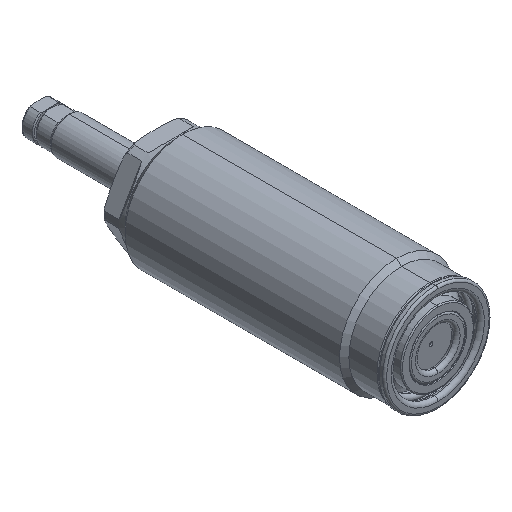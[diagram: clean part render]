
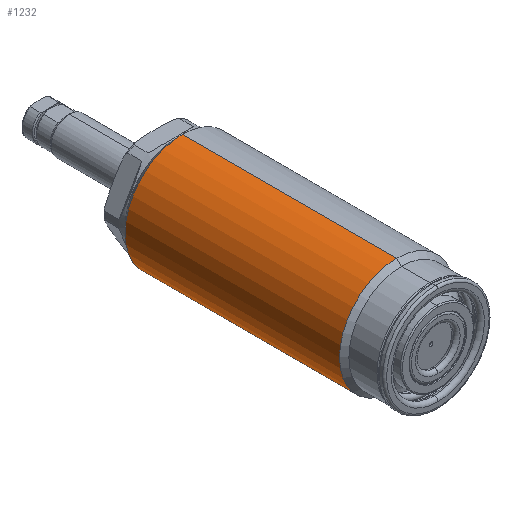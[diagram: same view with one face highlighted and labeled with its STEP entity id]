
A CAD part, isometric view. The second image highlights one B-rep face of the part: STEP entity #1232.
In plain terms, the highlighted cylindrical face has radius 11 mm (diameter 22 mm), a partial arc.
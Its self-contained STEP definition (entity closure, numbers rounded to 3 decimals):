
#943=CYLINDRICAL_SURFACE('',#3458,11.);
#991=LINE('',#4768,#1089);
#992=LINE('',#4769,#1090);
#1089=VECTOR('',#3836,1.);
#1090=VECTOR('',#3837,1.);
#1232=ADVANCED_FACE('',(#1457),#943,.T.);
#1457=FACE_OUTER_BOUND('',#1621,.T.);
#1621=EDGE_LOOP('',(#2014,#2015,#2016,#2017));
#2014=ORIENTED_EDGE('',*,*,#2763,.F.);
#2015=ORIENTED_EDGE('',*,*,#2858,.T.);
#2016=ORIENTED_EDGE('',*,*,#2764,.T.);
#2017=ORIENTED_EDGE('',*,*,#2859,.F.);
#2528=VERTEX_POINT('',#4760);
#2529=VERTEX_POINT('',#4762);
#2530=VERTEX_POINT('',#4766);
#2531=VERTEX_POINT('',#4767);
#2763=EDGE_CURVE('',#2531,#2529,#991,.T.);
#2764=EDGE_CURVE('',#2530,#2528,#992,.T.);
#2858=EDGE_CURVE('',#2531,#2530,#3162,.T.);
#2859=EDGE_CURVE('',#2529,#2528,#3163,.T.);
#3162=CIRCLE('',#3455,11.);
#3163=CIRCLE('',#3457,11.);
#3455=AXIS2_PLACEMENT_3D('',#5127,#4078,#4079);
#3457=AXIS2_PLACEMENT_3D('',#5129,#4082,#4083);
#3458=AXIS2_PLACEMENT_3D('',#5130,#4084,#4085);
#3836=DIRECTION('',(0.,1.,0.));
#3837=DIRECTION('',(0.,1.,0.));
#4078=DIRECTION('',(0.,1.,0.));
#4079=DIRECTION('',(0.,0.,1.));
#4082=DIRECTION('',(0.,1.,0.));
#4083=DIRECTION('',(0.,0.,1.));
#4084=DIRECTION('',(0.,1.,0.));
#4085=DIRECTION('',(0.,0.,-1.));
#4760=CARTESIAN_POINT('',(0.,51.96,11.));
#4762=CARTESIAN_POINT('',(0.,51.96,-11.));
#4766=CARTESIAN_POINT('',(0.,10.76,11.));
#4767=CARTESIAN_POINT('',(0.,10.76,-11.));
#4768=CARTESIAN_POINT('',(0.,80.982,-11.));
#4769=CARTESIAN_POINT('',(0.,80.982,11.));
#5127=CARTESIAN_POINT('',(0.,10.76,0.));
#5129=CARTESIAN_POINT('',(0.,51.96,0.));
#5130=CARTESIAN_POINT('',(0.,80.982,0.));
